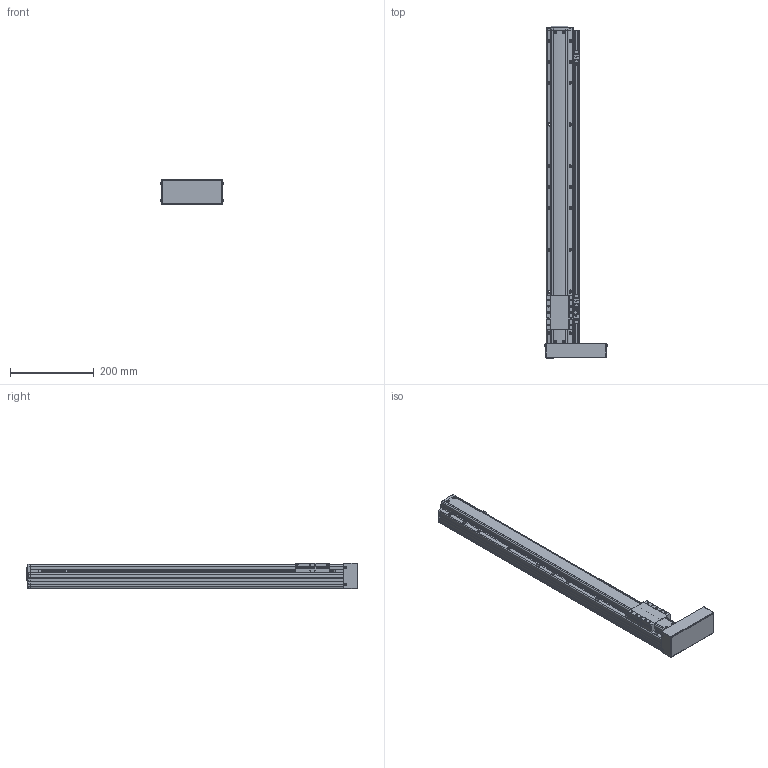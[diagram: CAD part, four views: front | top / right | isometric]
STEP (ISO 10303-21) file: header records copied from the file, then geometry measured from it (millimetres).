
FILE_DESCRIPTION(('STEP AP214'),'1');
FILE_NAME('Z:/Web/3D/PSA65/STP/PSA65-600 (3D)/PSA65ㅁㅁ-600PR+3SR.stp','2014-06-25T05:10:33',(' '),(' '),'Spatial InterOp 3D',' ',' ');
FILE_SCHEMA(('automotive_design'));
Length unit declared in the file: millimetre
Products named in the file (67): SLIDE; RRCV-PA060; 1; 2; 3; 4; 5; 6; 7; 8; 9; 10; 11; 12; 13; 14; 15; 16; 17; 18; 19; 20; 21; 22; 23; 24; 25; 26; 27; 28; 29; 30; 31; 스크루 : Round - M3.0 x 8.0; RN8 x 0.75; SHAFT-SAN65; BASE; 스크루 : Round - M3.0 x 6.0; BTCV-SAN65; BHCS M3 X 6L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
Bounding box: 149.13 x 794.8 x 62 mm (x, y, z)
Volume: 2692271.3 mm3; surface area: 429525.4 mm2
Topology: 67 solids, 67 shells, 2300 faces, 6067 edges, 3892 vertices
Faces by surface type: plane 1395, cylinder 613, cone 207, sphere 50, bspline 19, torus 16
Entity records: 91038 total; most frequent: CARTESIAN_POINT 13927, DIRECTION 12234, ORIENTED_EDGE 11866, EDGE_CURVE 5933, LINE 4156, VECTOR 4156, AXIS2_PLACEMENT_3D 4039, VERTEX_POINT 3892
